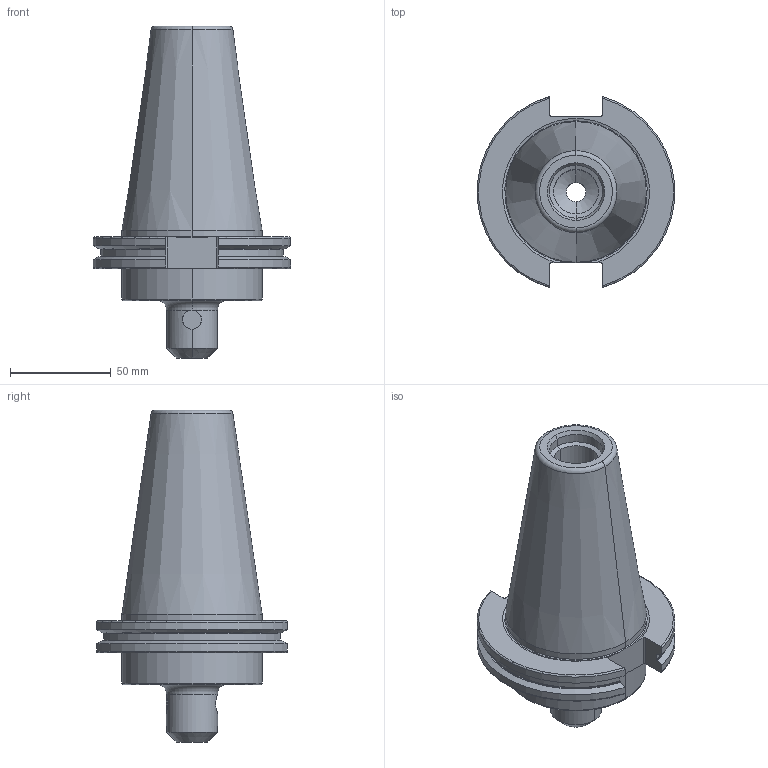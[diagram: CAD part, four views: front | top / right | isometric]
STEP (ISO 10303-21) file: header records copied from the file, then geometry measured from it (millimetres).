
FILE_DESCRIPTION (( 'STEP AP214' ), '1' );
FILE_NAME ('RC5EM03752500.STEP', '2019-02-08T14:29:49', ( '' ), ( '' ), 'SwSTEP 2.0', 'SolidWorks 2019', '' );
FILE_SCHEMA (( 'AUTOMOTIVE_DESIGN' ));
Length unit declared in the file: inch
Products named in the file (1): RC5EM03752500
Bounding box: 98.05 x 94.95 x 165.1 mm (x, y, z)
Volume: 386160.8 mm3; surface area: 51460.8 mm2
Topology: 1 solids, 1 shells, 118 faces, 305 edges, 189 vertices
Faces by surface type: cylinder 37, plane 36, cone 29, torus 16
Entity records: 4005 total; most frequent: CARTESIAN_POINT 1076, ORIENTED_EDGE 602, DIRECTION 597, EDGE_CURVE 301, AXIS2_PLACEMENT_3D 238, VERTEX_POINT 189, EDGE_LOOP 124, VECTOR 121
